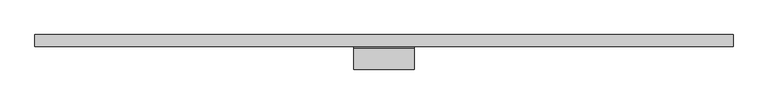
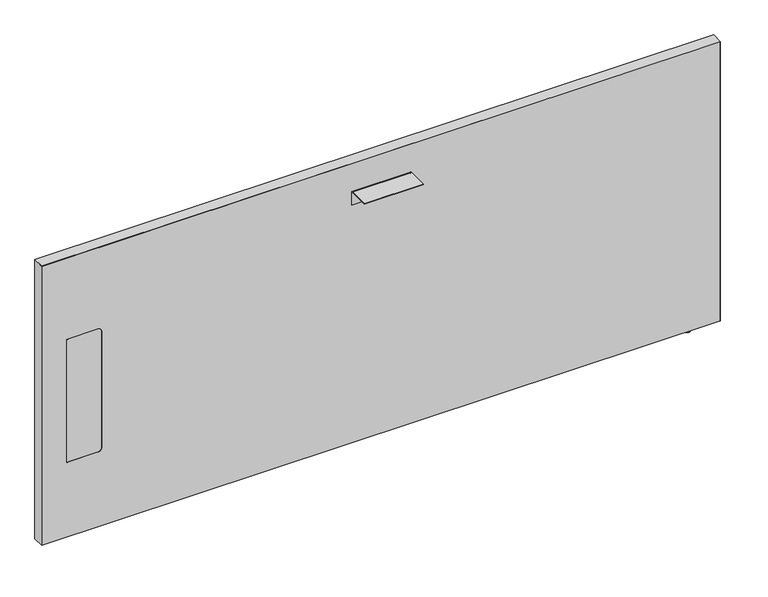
"""IFC4 building model written with IfcOpenShell, lengths in millimetres: furniture geometry, Steelcase - Answer Solution - Boundary Screen - Straight - Single Sided : 30H x 69W."""

from ifc_helpers import new_model, si_unit, point, frame, frame_2d, origin, place, context, project, spatial, polyline, circle_curve, ellipse_curve, trimmed, segment, composite_curve, outline, extrude, source, transform, mapped, element, save
from ifc_brep_helpers import plane_surface, cylinder_surface, revolved_surface, advanced_brep


def furniture_11ddcab9(model_context):
    return source(origin(), model_context, "Body", "SolidModel", [
        extrude(outline(composite_curve([segment(polyline([(-86.8398151, 696.4680019), (-86.8398151, 698.5), (-34.9450855, 698.5)]), True, "CONTINUOUS"), segment(trimmed(circle_curve(frame_2d((-34.9450855, 693.2447477)), 5.2552523), [point((-34.9450855, 698.5))], [point((-29.6898332, 693.2447477))], False, "CARTESIAN"), True, "CONTINUOUS"), segment(polyline([(-29.6898332, 693.2447477), (-29.6898332, 660.4), (-31.7218162, 660.4), (-31.7218162, 693.0058743)]), True, "CONTINUOUS"), segment(trimmed(circle_curve(frame_2d((-35.1839438, 693.0058743)), 3.4621276), [point((-31.7218162, 693.0058743))], [point((-35.1839438, 696.4680019))], True, "CARTESIAN"), True, "CONTINUOUS"), segment(polyline([(-35.1839438, 696.4680019), (-86.8398151, 696.4680019)]), True, "CONTINUOUS")], self_intersect=False)), frame((153.6191407, 0.0, 0.0), z_axis=(1.0, 0.0, 0.0), x_axis=(0.0, 1.0, 0.0)), (0.0, 0.0, 1.0), 152.4000969),
        advanced_brep(
        [(1028.9286488, -23.7588726, 9.9059849), (1028.9286488, -5.9309607, 9.9059849), (1028.9286488, -14.8449166, 9.9059849), (1028.9286488, -23.7588726, 2.9673238), (1028.9286488, -5.9309607, 2.9673238), (1028.9286488, -22.7915354, 2.9673238), (1028.9286488, -6.8982978, 2.9673238), (1028.9286488, -22.7915354, 1.6569081), (1028.9286488, -6.8982978, 1.6569081), (1028.9286488, -21.1346274, 0.0), (1028.9286488, -8.5552059, 0.0), (1028.9286488, -14.8449166, 0.0)],
        [
            (0, 1, circle_curve(frame((1028.9286488, -14.8449166, 9.9059849), z_axis=(0.0, 0.0, 1.0), x_axis=(0.0, 1.0, 0.0)), 8.913956)),
            (1, 2),
            (2, 0),
            (1, 0, circle_curve(frame((1028.9286488, -14.8449166, 9.9059849), z_axis=(0.0, 0.0, 1.0), x_axis=(0.0, 1.0, 0.0)), 8.913956)),
            (3, 4, circle_curve(frame((1028.9286488, -14.8449166, 2.9673238), z_axis=(0.0, 0.0, 1.0), x_axis=(0.0, 1.0, 0.0)), 8.913956)),
            (4, 1),
            (0, 3),
            (4, 3, circle_curve(frame((1028.9286488, -14.8449166, 2.9673238), z_axis=(0.0, 0.0, 1.0), x_axis=(0.0, 1.0, 0.0)), 8.913956)),
            (5, 6, circle_curve(frame((1028.9286488, -14.8449166, 2.9673238), z_axis=(0.0, 0.0, 1.0), x_axis=(0.0, 1.0, 0.0)), 7.9466188)),
            (6, 4),
            (3, 5),
            (6, 5, circle_curve(frame((1028.9286488, -14.8449166, 2.9673238), z_axis=(0.0, 0.0, 1.0), x_axis=(0.0, 1.0, 0.0)), 7.9466188)),
            (7, 8, circle_curve(frame((1028.9286488, -14.8449166, 1.6569081), z_axis=(0.0, 0.0, 1.0), x_axis=(0.0, 1.0, 0.0)), 7.9466188)),
            (8, 6),
            (5, 7),
            (8, 7, circle_curve(frame((1028.9286488, -14.8449166, 1.6569081), z_axis=(0.0, 0.0, 1.0), x_axis=(0.0, 1.0, 0.0)), 7.9466188)),
            (9, 10, circle_curve(frame((1028.9286488, -14.8449166, 0.0), z_axis=(0.0, 0.0, 1.0), x_axis=(0.0, 1.0, 0.0)), 6.2897107)),
            (10, 8, circle_curve(frame((1028.9286488, -8.5552059, 1.6569081), z_axis=(1.0, 0.0, 0.0), x_axis=(0.0, 1.0, 0.0)), 1.6569081)),
            (7, 9, circle_curve(frame((1028.9286488, -21.1346274, 1.6569081), z_axis=(1.0, 0.0, 0.0), x_axis=(0.0, -1.0, 0.0)), 1.6569081)),
            (10, 9, circle_curve(frame((1028.9286488, -14.8449166, 0.0), z_axis=(0.0, 0.0, 1.0), x_axis=(0.0, 1.0, 0.0)), 6.2897107)),
            (11, 10),
            (9, 11),
        ],
        [
            plane_surface(frame((1028.9286488, -14.8449166, 9.9059849), z_axis=(0.0, 0.0, 1.0), x_axis=(0.0, 1.0, 0.0))),
            cylinder_surface(frame((1028.9286488, -14.8449166, 9.9059849), z_axis=(0.0, 0.0, -1.0), x_axis=(0.0, 1.0, 0.0)), 8.913956),
            plane_surface(frame((1028.9286488, -14.8449166, 2.9673238), z_axis=(0.0, 0.0, -1.0), x_axis=(0.0, 1.0, 0.0))),
            cylinder_surface(frame((1028.9286488, -14.8449166, 9.9059849), z_axis=(0.0, 0.0, -1.0), x_axis=(0.0, 1.0, 0.0)), 7.9466188),
            revolved_surface(trimmed(ellipse_curve(frame((1028.9286488, -8.5552059, 1.6569081), z_axis=(-1.0, 0.0, 0.0), x_axis=(0.0, 1.0, 0.0)), 1.6569081, 1.6569081), [point((1028.9286488, -6.8982978, 1.6569081))], [point((1028.9286488, -8.5552059, 0.0))], True, "CARTESIAN"), (1028.9286488, -14.8449166, 9.9059849), (0.0, 0.0, -1.0)),
            plane_surface(frame((1028.9286488, -14.8449166, 0.0), z_axis=(0.0, 0.0, -1.0), x_axis=(0.0, 1.0, 0.0))),
        ],
        [
            (0, [[1, 2, 3]]),
            (0, [[4, -3, -2]]),
            (1, [[5, 6, -1, 7]]),
            (1, [[8, -7, -4, -6]]),
            (2, [[9, 10, -5, 11]]),
            (2, [[12, -11, -8, -10]]),
            (3, [[13, 14, -9, 15]]),
            (3, [[16, -15, -12, -14]]),
            (4, [[17, 18, -13, 19]]),
            (4, [[20, -19, -16, -18]]),
            (5, [[21, -17, 22]]),
            (5, [[-22, -20, -21]]),
        ],
    ),
        advanced_brep(
        [(1105.0780168, 0.0, 771.942118), (1105.0780168, 0.0, 9.9059849), (-645.4902221, 0.0, 9.9059849), (-645.4902221, 0.0, 771.942118), (1105.0780168, -29.6898332, 771.942118), (-645.4902221, -29.6898332, 771.942118), (-645.4902221, -29.6898332, 9.9059849), (1105.0780168, -29.6898332, 9.9059849), (-501.1463873, -29.6898332, 549.6162029), (-490.9863873, -29.6898332, 539.4562029), (-490.9863873, -29.6898332, 223.9362137), (-501.1463873, -29.6898332, 213.7762137), (-580.800285, -29.6898332, 213.7762137), (-580.800285, -29.6898332, 549.6162029), (-580.800285, -29.0550397, 549.6162029), (-501.1463873, -29.0550397, 549.6162029), (-580.800285, -29.0550397, 213.7762137), (-501.1463873, -29.0550397, 213.7762137), (-490.9863873, -29.0550397, 223.9362137), (-490.9863873, -29.0550397, 539.4562029)],
        [
            (0, 1),
            (1, 2),
            (2, 3),
            (3, 0),
            (4, 5),
            (5, 6),
            (6, 7),
            (7, 4),
            (8, 9, circle_curve(frame((-501.1463873, -29.6898332, 539.4562029), z_axis=(0.0, 1.0, 0.0), x_axis=(0.0, 0.0, 1.0)), 10.16)),
            (9, 10),
            (10, 11, circle_curve(frame((-501.1463873, -29.6898332, 223.9362137), z_axis=(0.0, 1.0, 0.0), x_axis=(0.0, 0.0, 1.0)), 10.16)),
            (11, 12),
            (12, 13),
            (13, 8),
            (0, 4),
            (7, 1),
            (6, 2),
            (5, 3),
            (13, 14),
            (14, 15),
            (15, 8),
            (12, 16),
            (16, 14),
            (11, 17),
            (17, 16),
            (10, 18),
            (18, 17, circle_curve(frame((-501.1463873, -29.0550397, 223.9362137), z_axis=(0.0, 1.0, 0.0), x_axis=(0.0, 0.0, 1.0)), 10.16)),
            (9, 19),
            (19, 18),
            (15, 19, circle_curve(frame((-501.1463873, -29.0550397, 539.4562029), z_axis=(0.0, 1.0, 0.0), x_axis=(0.0, 0.0, 1.0)), 10.16)),
        ],
        [
            plane_surface(frame((1105.0780168, 0.0, 771.942118), z_axis=(0.0, 1.0, 0.0), x_axis=(0.0, 0.0, -1.0))),
            plane_surface(frame((1105.0780168, -29.6898332, 771.942118), z_axis=(0.0, -1.0, 0.0), x_axis=(0.0, 0.0, 1.0))),
            plane_surface(frame((1105.0780168, 0.0, 771.942118), z_axis=(1.0, 0.0, 0.0), x_axis=(0.0, -1.0, 0.0))),
            plane_surface(frame((1105.0780168, 0.0, 9.9059849), z_axis=(0.0, 0.0, -1.0), x_axis=(0.0, -1.0, 0.0))),
            plane_surface(frame((-645.4902221, 0.0, 9.9059849), z_axis=(-1.0, 0.0, 0.0), x_axis=(0.0, -1.0, 0.0))),
            plane_surface(frame((-645.4902221, 0.0, 771.942118), z_axis=(0.0, 0.0, 1.0), x_axis=(0.0, -1.0, 0.0))),
            plane_surface(frame((-501.1463873, 0.0, 549.6162029), z_axis=(0.0, 0.0, -1.0), x_axis=(0.0, -1.0, 0.0))),
            plane_surface(frame((-580.800285, 0.0, 549.6162029), z_axis=(1.0, 0.0, 0.0), x_axis=(0.0, -1.0, 0.0))),
            plane_surface(frame((-580.800285, 0.0, 213.7762137), z_axis=(0.0, 0.0, 1.0), x_axis=(0.0, -1.0, 0.0))),
            revolved_surface(polyline([(-501.1463873, -29.6898332, 234.0962137), (-501.1463873, -29.0550397, 234.0962137)]), (-501.1463873, -29.6898332, 223.9362137), (0.0, -1.0, 0.0)),
            plane_surface(frame((-490.9863873, 0.0, 223.9362137), z_axis=(-1.0, 0.0, 0.0), x_axis=(0.0, -1.0, 0.0))),
            revolved_surface(polyline([(-501.1463873, -29.6898332, 549.6162029), (-501.1463873, -29.0550397, 549.6162029)]), (-501.1463873, -29.6898332, 539.4562029), (0.0, -1.0, 0.0)),
            plane_surface(frame((-490.9863873, -29.0550397, 629.172953), z_axis=(0.0, -1.0, 0.0), x_axis=(0.0, 0.0, 1.0))),
        ],
        [
            (0, [[1, 2, 3, 4]]),
            (1, [[5, 6, 7, 8], [9, 10, 11, 12, 13, 14]]),
            (2, [[-1, 15, -8, 16]]),
            (3, [[-2, -16, -7, 17]]),
            (4, [[-3, -17, -6, 18]]),
            (5, [[-4, -18, -5, -15]]),
            (6, [[-14, 19, 20, 21]]),
            (7, [[-13, 22, 23, -19]]),
            (8, [[-12, 24, 25, -22]]),
            (9, [[-11, 26, 27, -24]]),
            (10, [[-10, 28, 29, -26]]),
            (11, [[-9, -21, 30, -28]]),
            (12, [[-20, -23, -25, -27, -29, -30]]),
        ],
    ),
        extrude(outline(composite_curve([segment(polyline([(549.6162029, -501.1463873), (549.6162029, -580.800285), (213.7762137, -580.800285), (213.7762137, -501.1463873)]), True, "CONTINUOUS"), segment(trimmed(circle_curve(frame_2d((223.9362137, -501.1463873)), 10.16), [point((213.7762137, -501.1463873))], [point((223.9362137, -490.9863873))], False, "CARTESIAN"), True, "CONTINUOUS"), segment(polyline([(223.9362137, -490.9863873), (539.4562029, -490.9863873)]), True, "CONTINUOUS"), segment(trimmed(circle_curve(frame_2d((539.4562029, -501.1463873)), 10.16), [point((539.4562029, -490.9863873))], [point((549.6162029, -501.1463873))], False, "CARTESIAN"), True, "CONTINUOUS")], self_intersect=False)), frame((0.0, -29.6898332, 0.0), z_axis=(0.0, 1.0, 0.0), x_axis=(0.0, 0.0, 1.0)), (0.0, 0.0, 1.0), 0.6347935),
        extrude(outline(polyline([(772.922, 1106.1191891), (772.922, -646.4808109), (9.9059849, -646.4808109), (9.9059849, -645.4902221), (771.942118, -645.4902221), (771.942118, 1105.0780168), (9.9059849, 1105.0780168), (9.9059849, 1106.1191891), (772.922, 1106.1191891)])), frame((0.0, -29.6898332, 0.0), z_axis=(0.0, 1.0, 0.0), x_axis=(0.0, 0.0, 1.0)), (0.0, 0.0, 1.0), 29.6898332),
    ])


if __name__ == "__main__":
    model = new_model("IFC4")
    model_context = context("Model", 3, world=origin())
    ifc_project = project(units=[si_unit("LENGTHUNIT", "METRE", prefix="MILLI")], contexts=[model_context])
    site = spatial("IfcSite", under=ifc_project)
    building = spatial("IfcBuilding", under=site)
    placement = place(None, origin())
    furniture_shape = furniture_11ddcab9(model_context)
    element("IfcFurniture", 1, ObjectType="Steelcase - Answer Solution - Boundary Screen - Straight - Single Sided : 30H x 69W", at=placement, inside=building, context=model_context, shape_type="MappedRepresentation", body=[
        mapped(furniture_shape, transform((0.0, 0.0, 0.0), x_axis=(1.0, 0.0, 0.0), y_axis=(0.0, 1.0, 0.0), z_axis=(0.0, 0.0, 1.0))),
    ])
    save(model, "model.ifc")
